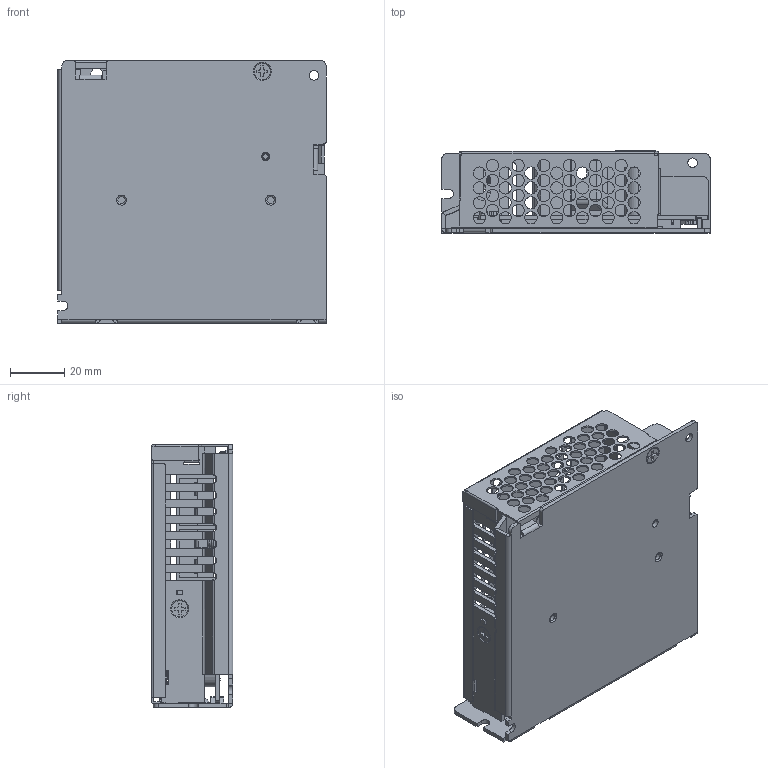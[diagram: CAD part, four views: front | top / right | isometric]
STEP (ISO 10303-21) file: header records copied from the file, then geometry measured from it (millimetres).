
FILE_DESCRIPTION((''),'2;1');
FILE_NAME('00-PMT-XXV75W2BX_3D_ASM','2024-09-16T10:00:25',('JACKY.LEE'),(''),'CREO PARAMETRIC BY PTC INC, 2023294','CREO PARAMETRIC BY PTC INC, 2023294','');
FILE_SCHEMA(('CONFIG_CONTROL_DESIGN','GEOMETRIC_VALIDATION_PROPERTIES_MIM'));
Products named in the file (28): PMT_24V75W_PWB_COR_18_RNM_1; PMT-24V75W_CHASSIS_42_RNM_1; PMT_24V75W_INSULATOR_13_1; PMT-12V350W2BA_LAYOUT20190125_1; PMT-12V350W2BA_LAYOUT20190125_2; PMT-12V350W2BA_LAYOUT20190125_6_ASM; BLACK_SINGLE_2_1; PMT-12V75W2BA_LAYOUT0508_3_1; PMT-12V75W2BA_LAYOUT20190325_5_; PMT_24V75W_COVER_20190326_20_1_; PMT_24V75W_COVER_20190326_20_2_; PMT_24V75W_COVER_20190326_20_AS_ASM; LED_2306007105_2_1; VR1__1_1; LEG1__2_1; VR_LEG__ASM_3_ASM_1_ASM; SPECLABEL_2_1; 3105325100_L5_1_1; 3105318101_L5_2_1; 3105318101_L12_2_1; PMT-75W_LAYOUT20190827_3_1; PMT-75W_LAYOUT020190906_3_1_1; PMT-75W_LAYOUT020190906_3_2_1; PMT-75W_LAYOUT020190906_3_ASM_1_ASM; PMT-24V75W_ASM_51_RNM_ASM_1_ASM; YK44105030D0G_1; PMT-XXV75W2BX_3D_ASM_1_ASM; 00-PMT-XXV75W2BX_3D_ASM
Assembly tree (29 placements, depth 5):
  00-PMT-XXV75W2BX_3D_ASM
    PMT-XXV75W2BX_3D_ASM_1_ASM
      PMT-24V75W_ASM_51_RNM_ASM_1_ASM
        PMT_24V75W_PWB_COR_18_RNM_1
        PMT-24V75W_CHASSIS_42_RNM_1
        PMT_24V75W_INSULATOR_13_1
        PMT-12V350W2BA_LAYOUT20190125_6_ASM
          PMT-12V350W2BA_LAYOUT20190125_1
          PMT-12V350W2BA_LAYOUT20190125_2
        BLACK_SINGLE_2_1
        PMT-12V75W2BA_LAYOUT0508_3_1
        PMT-12V75W2BA_LAYOUT20190325_5_
        PMT_24V75W_COVER_20190326_20_AS_ASM
          PMT_24V75W_COVER_20190326_20_1_
          PMT_24V75W_COVER_20190326_20_2_
        LED_2306007105_2_1
        VR_LEG__ASM_3_ASM_1_ASM
          VR1__1_1
          LEG1__2_1  x3
        SPECLABEL_2_1
        3105325100_L5_1_1
        3105318101_L5_2_1
        3105318101_L12_2_1
        PMT-75W_LAYOUT20190827_3_1
        PMT-75W_LAYOUT020190906_3_ASM_1_ASM
          PMT-75W_LAYOUT020190906_3_1_1
          PMT-75W_LAYOUT020190906_3_2_1
      YK44105030D0G_1
Bounding box: 99 x 30.2 x 97 mm (x, y, z)
Volume: 66126 mm3; surface area: 102123.1 mm2
Topology: 22 solids, 22 shells, 3026 faces, 9243 edges, 6009 vertices
Faces by surface type: plane 1789, cylinder 843, bspline 284, torus 60, cone 44, sphere 6
Entity records: 139661 total; most frequent: CARTESIAN_POINT 60614, ORIENTED_EDGE 17894, DIRECTION 14129, EDGE_CURVE 8947, VERTEX_POINT 5857, VECTOR 5177, LINE 5177, AXIS2_PLACEMENT_3D 4476
